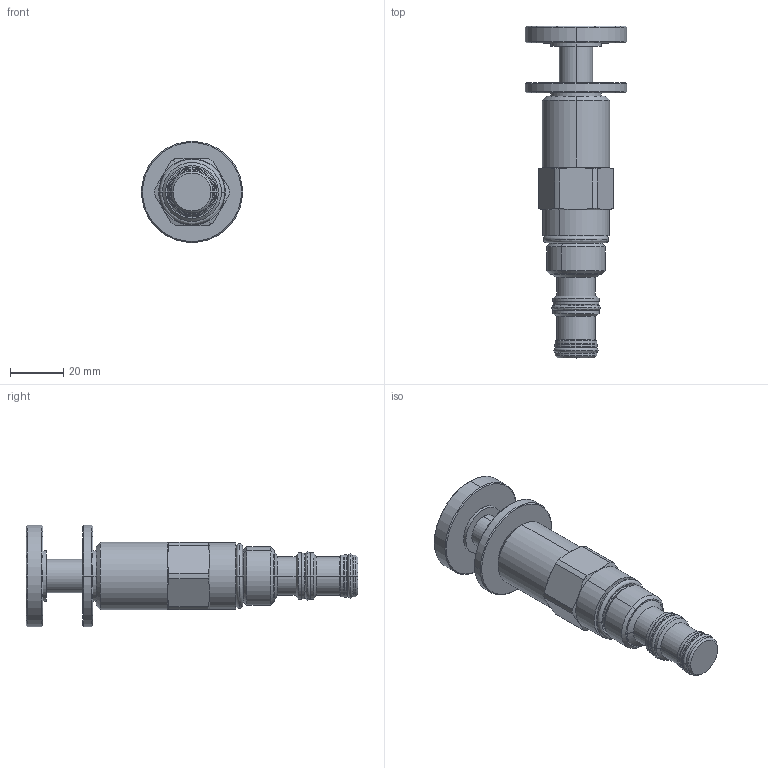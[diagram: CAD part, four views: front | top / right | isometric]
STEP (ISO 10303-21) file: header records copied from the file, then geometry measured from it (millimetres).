
FILE_DESCRIPTION((''),'2;1');
FILE_NAME('PRT0008','2009-03-24T',('jcs'),(''),'PRO/ENGINEER BY PARAMETRIC TECHNOLOGY CORPORATION, 2008510','PRO/ENGINEER BY PARAMETRIC TECHNOLOGY CORPORATION, 2008510','');
FILE_SCHEMA(('CONFIG_CONTROL_DESIGN'));
Length unit declared in the file: inch
Products named in the file (1): PRT0008
Bounding box: 38.1 x 125.07 x 38.1 mm (x, y, z)
Volume: 52334.3 mm3; surface area: 15940.6 mm2
Topology: 5 solids, 5 shells, 198 faces, 426 edges, 247 vertices
Faces by surface type: cylinder 62, cone 46, plane 38, torus 28, revolution 24
Entity records: 5922 total; most frequent: CARTESIAN_POINT 1521, DIRECTION 980, ORIENTED_EDGE 848, EDGE_CURVE 424, AXIS2_PLACEMENT_3D 412, VERTEX_POINT 247, CIRCLE 238, EDGE_LOOP 217
